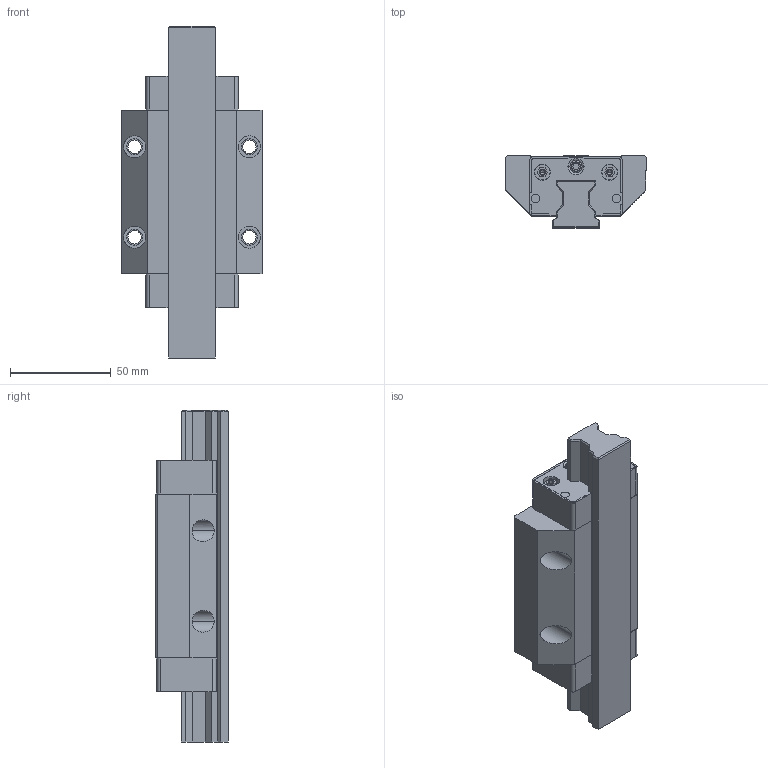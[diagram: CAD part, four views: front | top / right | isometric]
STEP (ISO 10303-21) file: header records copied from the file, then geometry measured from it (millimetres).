
FILE_DESCRIPTION((''),'2;1');
FILE_NAME('R1853_SIZE25_ASM','2021-07-06T04:30:49',('ac91sw'),(''),'CREO PARAMETRIC BY PTC INC, 2020044','CREO PARAMETRIC BY PTC INC, 2020044','');
FILE_SCHEMA(('AUTOMOTIVE_DESIGN { 1 0 10303 214 1 1 1 1 }'));
Length unit declared in the file: millimetre
Products named in the file (6): R1853_SIZE25_SKEL; R1853_SIZE25_FW; R185120702_Z; R1853_SIZE25_PSF; R913034226_Z; R1853_SIZE25_ASM
Assembly tree (7 placements, depth 2):
  R1853_SIZE25_ASM
    R1853_SIZE25_SKEL
    R1853_SIZE25_FW
    R185120702_Z  x2
    R1853_SIZE25_PSF
    R913034226_Z  x2
Bounding box: 70 x 36 x 165 mm (x, y, z)
Volume: 206727.5 mm3; surface area: 61886.3 mm2
Topology: 6 solids, 14 shells, 386 faces, 986 edges, 634 vertices
Faces by surface type: plane 236, cylinder 106, cone 40, torus 4
Entity records: 13683 total; most frequent: CARTESIAN_POINT 1577, DIRECTION 1386, ORIENTED_EDGE 1304, PROPERTY_DEFINITION 692, REPRESENTATION 686, PROPERTY_DEFINITION_REPRESENTATION 686, EDGE_CURVE 666, DESCRIPTIVE_REPRESENTATION_ITEM 642
